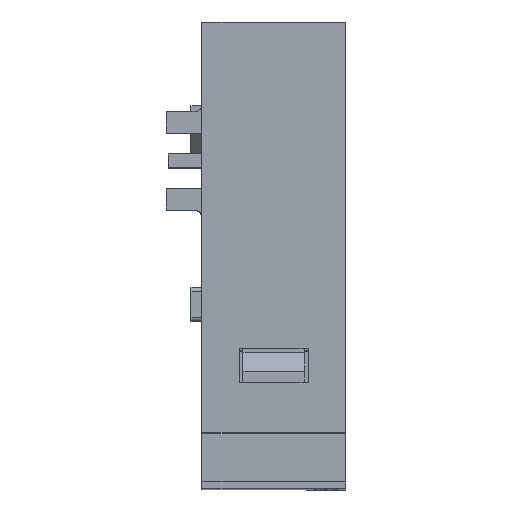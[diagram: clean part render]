
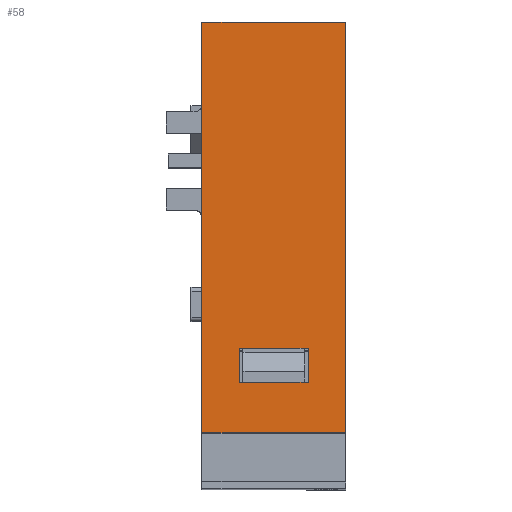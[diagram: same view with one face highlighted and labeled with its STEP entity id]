
A CAD part, top view. The second image highlights one B-rep face of the part: STEP entity #58.
In plain terms, the highlighted planar face has unit normal (0, 0, 1).
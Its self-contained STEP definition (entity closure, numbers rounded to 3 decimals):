
#58=ADVANCED_FACE('',(#598,#599),#597,.T.);
#597=PLANE('',#3853);
#598=FACE_OUTER_BOUND('',#3854,.T.);
#599=FACE_BOUND('',#3855,.T.);
#3850=CARTESIAN_POINT('',(-11.55,-38.,62.2));
#3851=DIRECTION('',(0.,0.,1.));
#3852=DIRECTION('',(1.,0.,0.));
#3853=AXIS2_PLACEMENT_3D('',#3850,#3851,#3852);
#3854=EDGE_LOOP('',(#5764,#5765,#5766,#5767));
#3855=EDGE_LOOP('',(#5768,#5769,#5770,#5771));
#5764=ORIENTED_EDGE('',*,*,#7667,.F.);
#5765=ORIENTED_EDGE('',*,*,#7666,.F.);
#5766=ORIENTED_EDGE('',*,*,#7524,.T.);
#5767=ORIENTED_EDGE('',*,*,#7668,.T.);
#5768=ORIENTED_EDGE('',*,*,#7669,.T.);
#5769=ORIENTED_EDGE('',*,*,#7670,.T.);
#5770=ORIENTED_EDGE('',*,*,#7671,.T.);
#5771=ORIENTED_EDGE('',*,*,#7672,.T.);
#7524=EDGE_CURVE('',#9461,#9454,#9462,.T.);
#7666=EDGE_CURVE('',#9461,#10432,#10439,.T.);
#7667=EDGE_CURVE('',#10432,#10445,#10446,.T.);
#7668=EDGE_CURVE('',#9454,#10445,#10452,.T.);
#7669=EDGE_CURVE('',#10458,#10459,#10460,.T.);
#7670=EDGE_CURVE('',#10459,#10466,#10467,.T.);
#7671=EDGE_CURVE('',#10466,#10473,#10474,.T.);
#7672=EDGE_CURVE('',#10473,#10458,#10480,.T.);
#9454=VERTEX_POINT('',#15358);
#9461=VERTEX_POINT('',#15362);
#9462=LINE('',#15363,#15364);
#10432=VERTEX_POINT('',#15927);
#10439=LINE('',#15931,#15932);
#10445=VERTEX_POINT('',#15934);
#10446=LINE('',#15935,#15936);
#10452=LINE('',#15938,#15939);
#10458=VERTEX_POINT('',#15941);
#10459=VERTEX_POINT('',#15942);
#10460=LINE('',#15943,#15944);
#10466=VERTEX_POINT('',#15946);
#10467=LINE('',#15947,#15948);
#10473=VERTEX_POINT('',#15950);
#10474=LINE('',#15951,#15952);
#10480=LINE('',#15954,#15955);
#15358=CARTESIAN_POINT('',(0.,-5.,62.2));
#15362=CARTESIAN_POINT('',(0.,-35.,62.2));
#15363=CARTESIAN_POINT('',(0.,-35.,62.2));
#15364=VECTOR('',#15365,30.);
#15365=DIRECTION('',(0.,1.,0.));
#15927=CARTESIAN_POINT('',(-10.5,-35.,62.2));
#15931=CARTESIAN_POINT('',(0.,-35.,62.2));
#15932=VECTOR('',#15933,10.5);
#15933=DIRECTION('',(-1.,0.,0.));
#15934=CARTESIAN_POINT('',(-10.5,-5.,62.2));
#15935=CARTESIAN_POINT('',(-10.5,-35.,62.2));
#15936=VECTOR('',#15937,30.);
#15937=DIRECTION('',(0.,1.,0.));
#15938=CARTESIAN_POINT('',(0.,-5.,62.2));
#15939=VECTOR('',#15940,10.5);
#15940=DIRECTION('',(-1.,0.,0.));
#15941=CARTESIAN_POINT('',(-2.75,-31.3,62.2));
#15942=CARTESIAN_POINT('',(-7.75,-31.3,62.2));
#15943=CARTESIAN_POINT('',(-2.75,-31.3,62.2));
#15944=VECTOR('',#15945,5.);
#15945=DIRECTION('',(-1.,0.,0.));
#15946=CARTESIAN_POINT('',(-7.75,-28.8,62.2));
#15947=CARTESIAN_POINT('',(-7.75,-31.3,62.2));
#15948=VECTOR('',#15949,2.5);
#15949=DIRECTION('',(0.,1.,0.));
#15950=CARTESIAN_POINT('',(-2.75,-28.8,62.2));
#15951=CARTESIAN_POINT('',(-7.75,-28.8,62.2));
#15952=VECTOR('',#15953,5.);
#15953=DIRECTION('',(1.,0.,0.));
#15954=CARTESIAN_POINT('',(-2.75,-28.8,62.2));
#15955=VECTOR('',#15956,2.5);
#15956=DIRECTION('',(0.,-1.,0.));
